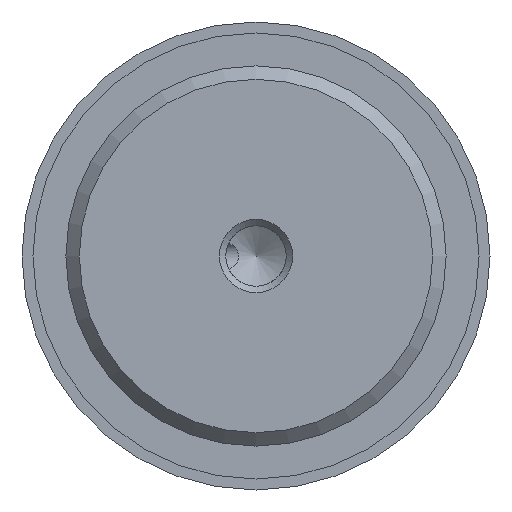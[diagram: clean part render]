
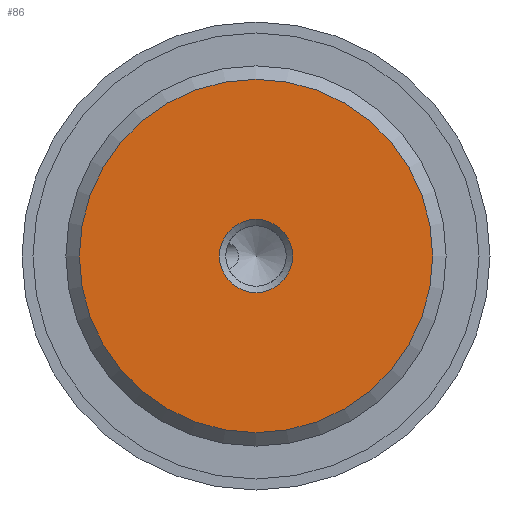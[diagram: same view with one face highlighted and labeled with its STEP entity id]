
A CAD part, front view. The second image highlights one B-rep face of the part: STEP entity #86.
In plain terms, the highlighted planar face has unit normal (0, -1, 0).
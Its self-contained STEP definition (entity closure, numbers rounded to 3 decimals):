
#86 = ADVANCED_FACE( '', ( #139, #140 ), #141, .F. );
#139 = FACE_BOUND( '', #226, .T. );
#140 = FACE_OUTER_BOUND( '', #227, .T. );
#141 = PLANE( '', #228 );
#226 = EDGE_LOOP( '', ( #382 ) );
#227 = EDGE_LOOP( '', ( #383 ) );
#228 = AXIS2_PLACEMENT_3D( '', #384, #385, #386 );
#382 = ORIENTED_EDGE( '', *, *, #582, .F. );
#383 = ORIENTED_EDGE( '', *, *, #584, .T. );
#384 = CARTESIAN_POINT( '', ( 12.08, 0., 0. ) );
#385 = DIRECTION( '', ( 0., 1., 0. ) );
#386 = DIRECTION( '', ( 0., 0., 1. ) );
#582 = EDGE_CURVE( '', #683, #683, #684, .T. );
#584 = EDGE_CURVE( '', #687, #687, #688, .T. );
#683 = VERTEX_POINT( '', #928 );
#684 = CIRCLE( '', #929, 2.5 );
#687 = VERTEX_POINT( '', #932 );
#688 = CIRCLE( '', #933, 12.08 );
#928 = CARTESIAN_POINT( '', ( 2.5, 0., 0. ) );
#929 = AXIS2_PLACEMENT_3D( '', #1036, #1037, #1038 );
#932 = CARTESIAN_POINT( '', ( 0., 0., -12.08 ) );
#933 = AXIS2_PLACEMENT_3D( '', #1042, #1043, #1044 );
#1036 = CARTESIAN_POINT( '', ( 0., 0., 0. ) );
#1037 = DIRECTION( '', ( 0., -1., 0. ) );
#1038 = DIRECTION( '', ( 1., 0., 0. ) );
#1042 = CARTESIAN_POINT( '', ( 0., 0., 0. ) );
#1043 = DIRECTION( '', ( 0., -1., 0. ) );
#1044 = DIRECTION( '', ( 0., 0., -1. ) );
